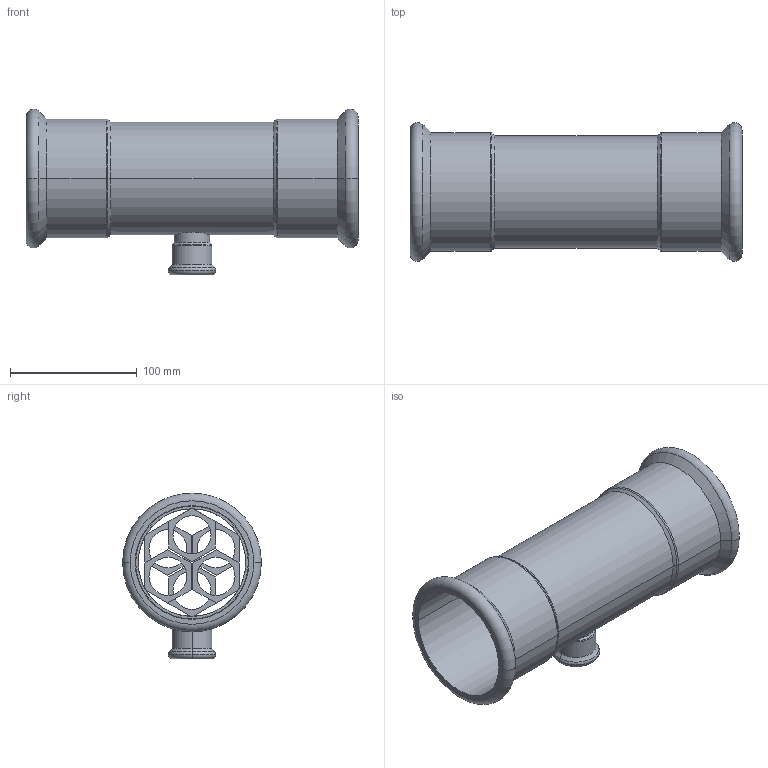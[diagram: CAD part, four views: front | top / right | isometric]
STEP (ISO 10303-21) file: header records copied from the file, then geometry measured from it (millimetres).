
FILE_DESCRIPTION(('OneSpaceDesigner STEP Export'),'2;1');
FILE_NAME('R2715 89x28x89.stp','2010-06-10T 9:30:31',(''),(''),'OneSpace Designer STEP processor for AP214 (Solid Model)','OneSpace Modeling 15.00A 14-Mar-2007 (C) CoCreate Software GmbH','');
FILE_SCHEMA(('AUTOMOTIVE_DESIGN { 1 0 10303 214 1 1 1 1 }'));
Length unit declared in the file: millimetre
Products named in the file (2): R2715_89x28x89
Assembly tree (1 placements, depth 2):
  R2715_89x28x89
    R2715_89x28x89
Bounding box: 262 x 109.48 x 130.74 mm (x, y, z)
Volume: 224010 mm3; surface area: 174698.4 mm2
Topology: 1 solids, 1 shells, 170 faces, 423 edges, 272 vertices
Faces by surface type: plane 90, cylinder 54, torus 14, cone 12
Entity records: 5648 total; most frequent: CARTESIAN_POINT 1899, ORIENTED_EDGE 846, DIRECTION 655, EDGE_CURVE 423, VERTEX_POINT 272, VECTOR 263, LINE 263, EDGE_LOOP 207
